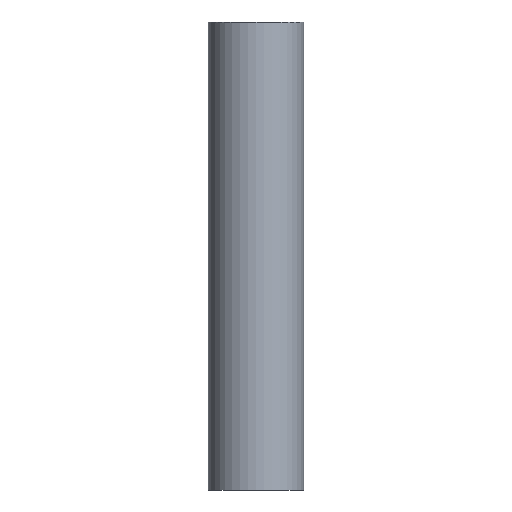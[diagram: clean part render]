
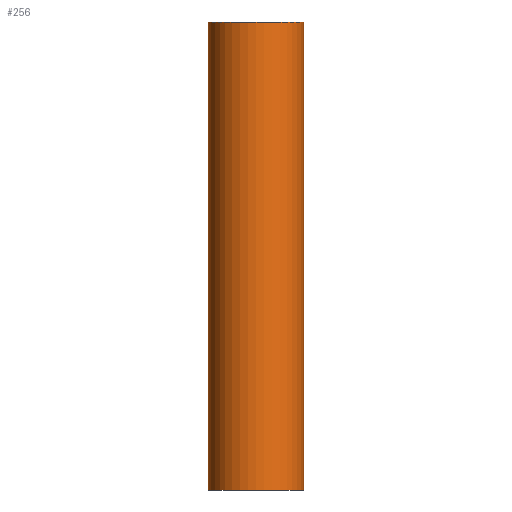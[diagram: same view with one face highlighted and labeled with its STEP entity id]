
A CAD part, front view. The second image highlights one B-rep face of the part: STEP entity #256.
In plain terms, the highlighted cylindrical face has radius 3.05 mm (diameter 6.1 mm), a partial arc.
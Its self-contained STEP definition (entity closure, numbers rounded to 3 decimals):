
#10 = VERTEX_POINT ( 'NONE', #86 ) ;
#32 = AXIS2_PLACEMENT_3D ( 'NONE', #130, #203, #185 ) ;
#47 = DIRECTION ( 'NONE',  ( 0., 0., -1. ) ) ;
#69 = AXIS2_PLACEMENT_3D ( 'NONE', #273, #281, #270 ) ;
#71 = ORIENTED_EDGE ( 'NONE', *, *, #74, .F. ) ;
#74 = EDGE_CURVE ( 'NONE', #286, #10, #207, .T. ) ;
#75 = CYLINDRICAL_SURFACE ( 'NONE', #82, 3.05 ) ;
#80 = ORIENTED_EDGE ( 'NONE', *, *, #178, .T. ) ;
#82 = AXIS2_PLACEMENT_3D ( 'NONE', #234, #260, #276 ) ;
#86 = CARTESIAN_POINT ( 'NONE',  ( 3.05, 0., 30. ) ) ;
#95 = ORIENTED_EDGE ( 'NONE', *, *, #247, .T. ) ;
#99 = CARTESIAN_POINT ( 'NONE',  ( 3.05, 0., 0. ) ) ;
#130 = CARTESIAN_POINT ( 'NONE',  ( 0., 0., 30. ) ) ;
#138 = CIRCLE ( 'NONE', #69, 3.05 ) ;
#159 = ORIENTED_EDGE ( 'NONE', *, *, #249, .F. ) ;
#178 = EDGE_CURVE ( 'NONE', #286, #251, #186, .T. ) ;
#185 = DIRECTION ( 'NONE',  ( 1., 0., 0. ) ) ;
#186 = LINE ( 'NONE', #288, #295 ) ;
#187 = DIRECTION ( 'NONE',  ( 0., 0., -1. ) ) ;
#189 = VECTOR ( 'NONE', #47, 1000. ) ;
#190 = CARTESIAN_POINT ( 'NONE',  ( -3.05, 0., 30. ) ) ;
#203 = DIRECTION ( 'NONE',  ( 0., 0., 1. ) ) ;
#207 = CIRCLE ( 'NONE', #32, 3.05 ) ;
#214 = EDGE_LOOP ( 'NONE', ( #159, #71, #80, #95 ) ) ;
#229 = VERTEX_POINT ( 'NONE', #99 ) ;
#234 = CARTESIAN_POINT ( 'NONE',  ( 0., 0., 30. ) ) ;
#247 = EDGE_CURVE ( 'NONE', #251, #229, #138, .T. ) ;
#249 = EDGE_CURVE ( 'NONE', #10, #229, #253, .T. ) ;
#251 = VERTEX_POINT ( 'NONE', #277 ) ;
#253 = LINE ( 'NONE', #278, #189 ) ;
#256 = ADVANCED_FACE ( 'NONE', ( #299 ), #75, .T. ) ;
#260 = DIRECTION ( 'NONE',  ( 0., 0., -1. ) ) ;
#270 = DIRECTION ( 'NONE',  ( 1., 0., 0. ) ) ;
#273 = CARTESIAN_POINT ( 'NONE',  ( 0., 0., 0. ) ) ;
#276 = DIRECTION ( 'NONE',  ( -1., 0., 0. ) ) ;
#277 = CARTESIAN_POINT ( 'NONE',  ( -3.05, 0., 0. ) ) ;
#278 = CARTESIAN_POINT ( 'NONE',  ( 3.05, 0., 30. ) ) ;
#281 = DIRECTION ( 'NONE',  ( 0., 0., 1. ) ) ;
#286 = VERTEX_POINT ( 'NONE', #190 ) ;
#288 = CARTESIAN_POINT ( 'NONE',  ( -3.05, 0., 30. ) ) ;
#295 = VECTOR ( 'NONE', #187, 1000. ) ;
#299 = FACE_OUTER_BOUND ( 'NONE', #214, .T. ) ;
